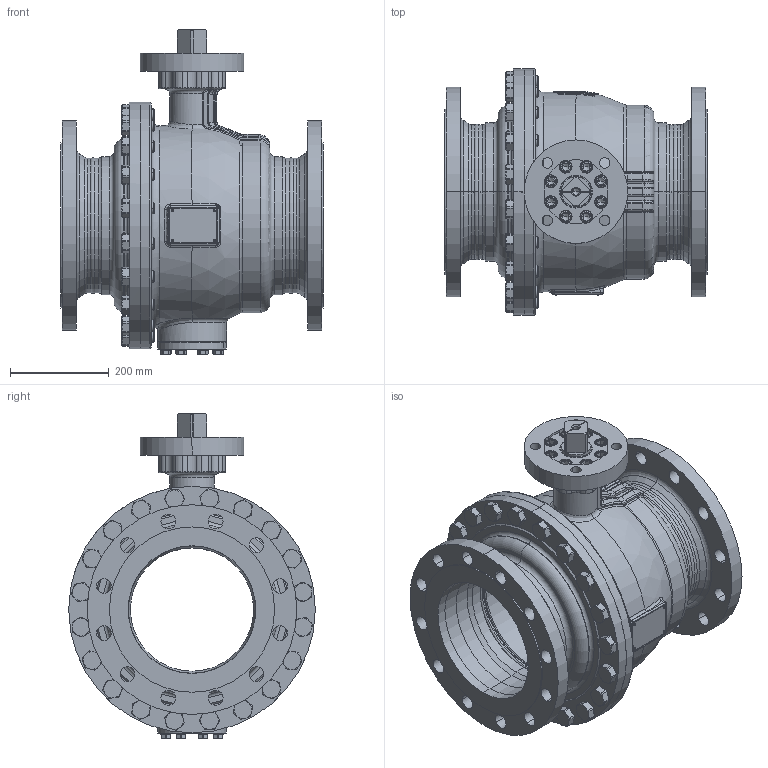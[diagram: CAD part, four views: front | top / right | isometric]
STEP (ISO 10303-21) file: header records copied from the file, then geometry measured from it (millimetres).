
FILE_DESCRIPTION((''),'2;1');
FILE_NAME('KHI-F_250_PN025-F16-4_SW0001','2026-02-05T13:46:52',('fischerkl'),('KLINGER'),'CREO PARAMETRIC BY PTC INC, 2023014','CREO PARAMETRIC BY PTC INC, 2023014','');
FILE_SCHEMA(('CONFIG_CONTROL_DESIGN'));
Products named in the file (1): KHI-F_250_PN025-F16-4_SW0001
Bounding box: 533 x 500 x 657.8 mm (x, y, z)
Volume: 23547365.2 mm3; surface area: 3475926.9 mm2
Topology: 1 solids, 4 shells, 3391 faces, 8645 edges, 5394 vertices
Faces by surface type: plane 1726, cylinder 804, cone 414, torus 308, bspline 97, sphere 42
Entity records: 139482 total; most frequent: CARTESIAN_POINT 58435, ORIENTED_EDGE 17214, DIRECTION 16698, EDGE_CURVE 8607, AXIS2_PLACEMENT_3D 6338, VERTEX_POINT 5394, VECTOR 4022, LINE 4022
